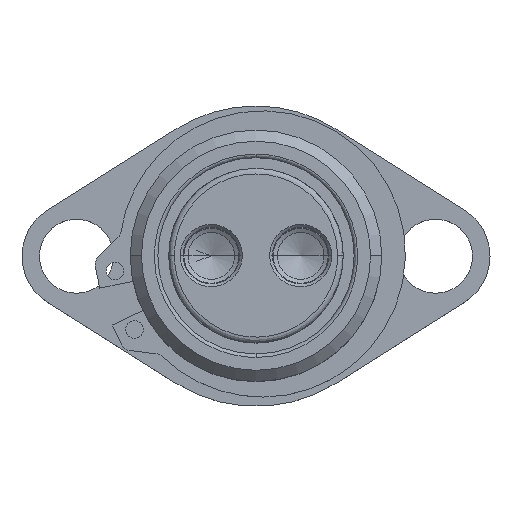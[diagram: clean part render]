
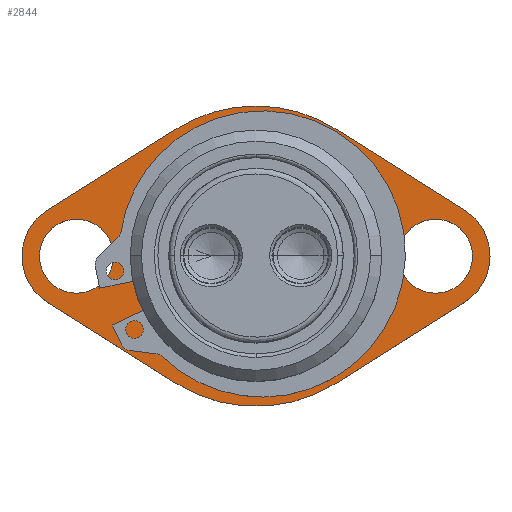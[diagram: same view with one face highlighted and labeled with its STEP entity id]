
A CAD part, top view. The second image highlights one B-rep face of the part: STEP entity #2844.
In plain terms, the highlighted planar face has unit normal (0, 0, 1) as drawn and (0, 1, 0) by its records, which use the part's own axes.
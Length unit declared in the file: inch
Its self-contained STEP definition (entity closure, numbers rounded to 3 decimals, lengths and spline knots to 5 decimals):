
#1 = CIRCLE ( 'NONE', #1873, 0.265 ) ;
#13 = CARTESIAN_POINT ( 'NONE',  ( 1.285, 0.25, 0. ) ) ;
#21 = CARTESIAN_POINT ( 'NONE',  ( -1.285, 0.25, 0. ) ) ;
#43 = DIRECTION ( 'NONE',  ( 0., -1., 0. ) ) ;
#100 = VERTEX_POINT ( 'NONE', #1490 ) ;
#109 = CARTESIAN_POINT ( 'NONE',  ( -1.285, 0.25, 0.265 ) ) ;
#117 = EDGE_CURVE ( 'NONE', #765, #442, #3721, .T. ) ;
#125 = CARTESIAN_POINT ( 'NONE',  ( 1.4929, 0.25, -0.32997 ) ) ;
#213 = CARTESIAN_POINT ( 'NONE',  ( -1.285, 0.25, 0. ) ) ;
#226 = AXIS2_PLACEMENT_3D ( 'NONE', #13, #43, #3679 ) ;
#249 = EDGE_CURVE ( 'NONE', #1301, #823, #1889, .T. ) ;
#279 = DIRECTION ( 'NONE',  ( 0., -1., 0. ) ) ;
#310 = CARTESIAN_POINT ( 'NONE',  ( 1.4929, 0.25, 0.32997 ) ) ;
#345 = DIRECTION ( 'NONE',  ( 0., 0., -1. ) ) ;
#363 = EDGE_CURVE ( 'NONE', #2519, #3838, #2152, .T. ) ;
#403 = DIRECTION ( 'NONE',  ( 0., 0., 1. ) ) ;
#408 = DIRECTION ( 'NONE',  ( 0., -1., 0. ) ) ;
#417 = CARTESIAN_POINT ( 'NONE',  ( 0., 0.25, -1.075 ) ) ;
#418 = EDGE_CURVE ( 'NONE', #586, #1436, #1150, .T. ) ;
#438 = EDGE_LOOP ( 'NONE', ( #1828, #854 ) ) ;
#442 = VERTEX_POINT ( 'NONE', #673 ) ;
#448 = ORIENTED_EDGE ( 'NONE', *, *, #3754, .F. ) ;
#539 = VERTEX_POINT ( 'NONE', #3403 ) ;
#563 = EDGE_CURVE ( 'NONE', #2851, #1701, #4141, .T. ) ;
#586 = VERTEX_POINT ( 'NONE', #2148 ) ;
#673 = CARTESIAN_POINT ( 'NONE',  ( -0.57305, 0.25, 0.90952 ) ) ;
#705 = EDGE_LOOP ( 'NONE', ( #1724, #3348, #2995, #3964, #1178, #4033, #1958, #3893, #448 ) ) ;
#728 = LINE ( 'NONE', #1783, #3601 ) ;
#765 = VERTEX_POINT ( 'NONE', #3871 ) ;
#823 = VERTEX_POINT ( 'NONE', #2914 ) ;
#854 = ORIENTED_EDGE ( 'NONE', *, *, #2300, .T. ) ;
#856 = AXIS2_PLACEMENT_3D ( 'NONE', #3696, #408, #2030 ) ;
#902 = FACE_BOUND ( 'NONE', #3477, .T. ) ;
#993 = DIRECTION ( 'NONE',  ( 0., 0., -1. ) ) ;
#1023 = DIRECTION ( 'NONE',  ( 0., 1., 0. ) ) ;
#1024 = EDGE_CURVE ( 'NONE', #539, #442, #728, .T. ) ;
#1041 = LINE ( 'NONE', #1348, #2765 ) ;
#1079 = DIRECTION ( 'NONE',  ( 0., -1., 0. ) ) ;
#1150 = LINE ( 'NONE', #3600, #3712 ) ;
#1178 = ORIENTED_EDGE ( 'NONE', *, *, #117, .F. ) ;
#1183 = ORIENTED_EDGE ( 'NONE', *, *, #2783, .T. ) ;
#1184 = EDGE_CURVE ( 'NONE', #3838, #2519, #1, .T. ) ;
#1220 = FACE_OUTER_BOUND ( 'NONE', #705, .T. ) ;
#1248 = DIRECTION ( 'NONE',  ( 0., -1., 0. ) ) ;
#1256 = CIRCLE ( 'NONE', #856, 1.075 ) ;
#1301 = VERTEX_POINT ( 'NONE', #109 ) ;
#1348 = CARTESIAN_POINT ( 'NONE',  ( 0.57305, 0.25, -0.90952 ) ) ;
#1420 = CARTESIAN_POINT ( 'NONE',  ( -1.285, 0.25, 0. ) ) ;
#1436 = VERTEX_POINT ( 'NONE', #1544 ) ;
#1455 = DIRECTION ( 'NONE',  ( 0., 0., -1. ) ) ;
#1484 = AXIS2_PLACEMENT_3D ( 'NONE', #1420, #3041, #3717 ) ;
#1490 = CARTESIAN_POINT ( 'NONE',  ( 0.57305, 0.25, -0.90952 ) ) ;
#1495 = ORIENTED_EDGE ( 'NONE', *, *, #1184, .T. ) ;
#1505 = EDGE_CURVE ( 'NONE', #2991, #100, #1041, .T. ) ;
#1544 = CARTESIAN_POINT ( 'NONE',  ( -1.4929, 0.25, -0.32997 ) ) ;
#1628 = VERTEX_POINT ( 'NONE', #417 ) ;
#1669 = VECTOR ( 'NONE', #3881, 39.37008 ) ;
#1701 = VERTEX_POINT ( 'NONE', #3166 ) ;
#1724 = ORIENTED_EDGE ( 'NONE', *, *, #2106, .F. ) ;
#1746 = DIRECTION ( 'NONE',  ( 0., 0., -1. ) ) ;
#1783 = CARTESIAN_POINT ( 'NONE',  ( -1.4929, 0.25, 0.32997 ) ) ;
#1810 = CARTESIAN_POINT ( 'NONE',  ( 1.285, 0.25, -0.265 ) ) ;
#1828 = ORIENTED_EDGE ( 'NONE', *, *, #563, .T. ) ;
#1848 = CARTESIAN_POINT ( 'NONE',  ( 1.285, 0.25, 0.265 ) ) ;
#1861 = EDGE_CURVE ( 'NONE', #765, #2731, #3765, .T. ) ;
#1873 = AXIS2_PLACEMENT_3D ( 'NONE', #2657, #4031, #993 ) ;
#1889 = CIRCLE ( 'NONE', #3326, 0.265 ) ;
#1901 = CIRCLE ( 'NONE', #1484, 0.265 ) ;
#1954 = CARTESIAN_POINT ( 'NONE',  ( -1.285, 0.25, 0. ) ) ;
#1958 = ORIENTED_EDGE ( 'NONE', *, *, #4185, .F. ) ;
#1999 = DIRECTION ( 'NONE',  ( -0.846, 0., 0.533 ) ) ;
#2030 = DIRECTION ( 'NONE',  ( 0., 0., -1. ) ) ;
#2034 = ORIENTED_EDGE ( 'NONE', *, *, #363, .T. ) ;
#2071 = PLANE ( 'NONE',  #3306 ) ;
#2106 = EDGE_CURVE ( 'NONE', #586, #1628, #2286, .T. ) ;
#2130 = DIRECTION ( 'NONE',  ( 0., 0., -1. ) ) ;
#2148 = CARTESIAN_POINT ( 'NONE',  ( -0.57305, 0.25, -0.90952 ) ) ;
#2152 = CIRCLE ( 'NONE', #226, 0.265 ) ;
#2169 = CARTESIAN_POINT ( 'NONE',  ( 0., 0.25, 0. ) ) ;
#2286 = CIRCLE ( 'NONE', #2958, 1.075 ) ;
#2300 = EDGE_CURVE ( 'NONE', #1701, #2851, #3912, .T. ) ;
#2365 = FACE_BOUND ( 'NONE', #3635, .T. ) ;
#2495 = EDGE_CURVE ( 'NONE', #539, #1436, #3465, .T. ) ;
#2512 = CARTESIAN_POINT ( 'NONE',  ( 0.57305, 0.25, 0.90952 ) ) ;
#2519 = VERTEX_POINT ( 'NONE', #1848 ) ;
#2547 = DIRECTION ( 'NONE',  ( 0., -1., 0. ) ) ;
#2620 = AXIS2_PLACEMENT_3D ( 'NONE', #2826, #4167, #2130 ) ;
#2657 = CARTESIAN_POINT ( 'NONE',  ( 1.285, 0.25, 0. ) ) ;
#2693 = ORIENTED_EDGE ( 'NONE', *, *, #249, .T. ) ;
#2724 = CARTESIAN_POINT ( 'NONE',  ( 0., 0.25, -0.9 ) ) ;
#2731 = VERTEX_POINT ( 'NONE', #310 ) ;
#2765 = VECTOR ( 'NONE', #3671, 39.37008 ) ;
#2783 = EDGE_CURVE ( 'NONE', #823, #1301, #1901, .T. ) ;
#2807 = DIRECTION ( 'NONE',  ( 0., 0., -1. ) ) ;
#2826 = CARTESIAN_POINT ( 'NONE',  ( 0., 0.25, 0. ) ) ;
#2844 = ADVANCED_FACE ( 'NONE', ( #2365, #1220, #902, #2941 ), #2071, .T. ) ;
#2851 = VERTEX_POINT ( 'NONE', #2724 ) ;
#2914 = CARTESIAN_POINT ( 'NONE',  ( -1.285, 0.25, -0.265 ) ) ;
#2928 = AXIS2_PLACEMENT_3D ( 'NONE', #1954, #279, #1746 ) ;
#2941 = FACE_BOUND ( 'NONE', #438, .T. ) ;
#2958 = AXIS2_PLACEMENT_3D ( 'NONE', #4092, #3436, #1455 ) ;
#2991 = VERTEX_POINT ( 'NONE', #125 ) ;
#2995 = ORIENTED_EDGE ( 'NONE', *, *, #2495, .F. ) ;
#3041 = DIRECTION ( 'NONE',  ( 0., -1., 0. ) ) ;
#3166 = CARTESIAN_POINT ( 'NONE',  ( 0., 0.25, 0.9 ) ) ;
#3168 = AXIS2_PLACEMENT_3D ( 'NONE', #3946, #1248, #3920 ) ;
#3177 = AXIS2_PLACEMENT_3D ( 'NONE', #2169, #3512, #2807 ) ;
#3201 = DIRECTION ( 'NONE',  ( 0., 0., -1. ) ) ;
#3306 = AXIS2_PLACEMENT_3D ( 'NONE', #21, #1023, #403 ) ;
#3326 = AXIS2_PLACEMENT_3D ( 'NONE', #213, #2547, #3201 ) ;
#3348 = ORIENTED_EDGE ( 'NONE', *, *, #418, .T. ) ;
#3403 = CARTESIAN_POINT ( 'NONE',  ( -1.4929, 0.25, 0.32997 ) ) ;
#3436 = DIRECTION ( 'NONE',  ( 0., -1., 0. ) ) ;
#3465 = CIRCLE ( 'NONE', #2928, 0.39 ) ;
#3477 = EDGE_LOOP ( 'NONE', ( #1495, #2034 ) ) ;
#3512 = DIRECTION ( 'NONE',  ( 0., -1., 0. ) ) ;
#3586 = AXIS2_PLACEMENT_3D ( 'NONE', #3676, #1079, #345 ) ;
#3600 = CARTESIAN_POINT ( 'NONE',  ( -1.4929, 0.25, -0.32997 ) ) ;
#3601 = VECTOR ( 'NONE', #4159, 39.37008 ) ;
#3635 = EDGE_LOOP ( 'NONE', ( #1183, #2693 ) ) ;
#3671 = DIRECTION ( 'NONE',  ( -0.846, 0., -0.533 ) ) ;
#3676 = CARTESIAN_POINT ( 'NONE',  ( 0., 0.25, 0. ) ) ;
#3679 = DIRECTION ( 'NONE',  ( 0., 0., -1. ) ) ;
#3696 = CARTESIAN_POINT ( 'NONE',  ( 0., 0.25, 0. ) ) ;
#3703 = CIRCLE ( 'NONE', #3168, 0.39 ) ;
#3712 = VECTOR ( 'NONE', #1999, 39.37008 ) ;
#3717 = DIRECTION ( 'NONE',  ( 0., 0., -1. ) ) ;
#3721 = CIRCLE ( 'NONE', #2620, 1.075 ) ;
#3754 = EDGE_CURVE ( 'NONE', #1628, #100, #1256, .T. ) ;
#3765 = LINE ( 'NONE', #2512, #1669 ) ;
#3838 = VERTEX_POINT ( 'NONE', #1810 ) ;
#3871 = CARTESIAN_POINT ( 'NONE',  ( 0.57305, 0.25, 0.90952 ) ) ;
#3881 = DIRECTION ( 'NONE',  ( 0.846, 0., -0.533 ) ) ;
#3893 = ORIENTED_EDGE ( 'NONE', *, *, #1505, .T. ) ;
#3912 = CIRCLE ( 'NONE', #3177, 0.9 ) ;
#3920 = DIRECTION ( 'NONE',  ( 0., 0., -1. ) ) ;
#3946 = CARTESIAN_POINT ( 'NONE',  ( 1.285, 0.25, 0. ) ) ;
#3964 = ORIENTED_EDGE ( 'NONE', *, *, #1024, .T. ) ;
#4031 = DIRECTION ( 'NONE',  ( 0., -1., 0. ) ) ;
#4033 = ORIENTED_EDGE ( 'NONE', *, *, #1861, .T. ) ;
#4092 = CARTESIAN_POINT ( 'NONE',  ( 0., 0.25, 0. ) ) ;
#4141 = CIRCLE ( 'NONE', #3586, 0.9 ) ;
#4159 = DIRECTION ( 'NONE',  ( 0.846, 0., 0.533 ) ) ;
#4167 = DIRECTION ( 'NONE',  ( 0., -1., 0. ) ) ;
#4185 = EDGE_CURVE ( 'NONE', #2991, #2731, #3703, .T. ) ;
